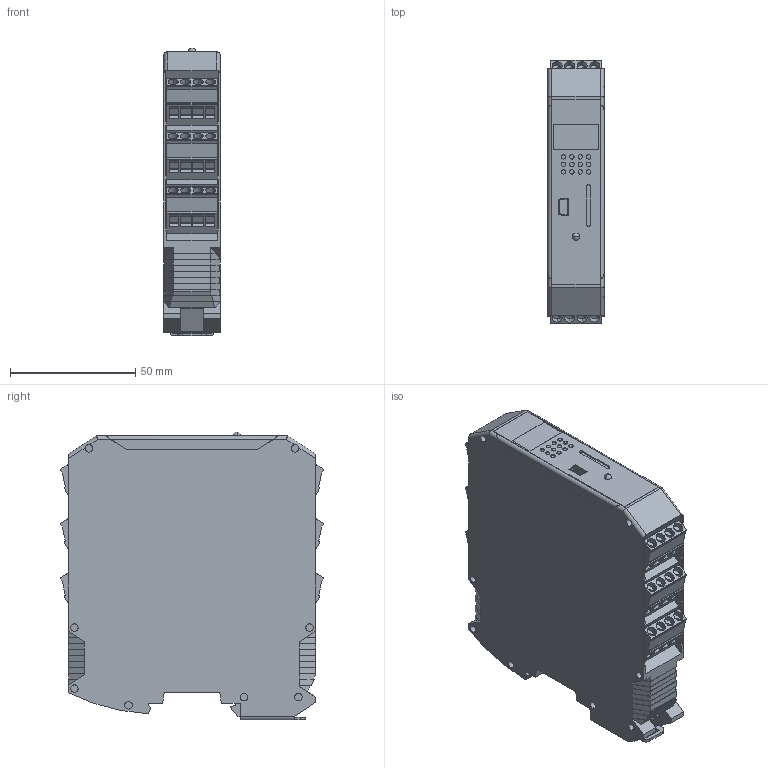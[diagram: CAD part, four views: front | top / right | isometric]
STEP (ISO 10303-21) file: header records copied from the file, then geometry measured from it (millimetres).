
FILE_DESCRIPTION( ( '' ), '1' );
FILE_NAME( '//expscmdclustefs.cadenas.external/client_exchange/iodir/jobs/output/wkb51953175_no0/STEP/AC041S_2_03.stp', '2012-12-04T14:37:41', ( '' ), ( '' ), ' ', ' ', ' ' );
FILE_SCHEMA( ( 'CONFIG_CONTROL_DESIGN' ) );
Length unit declared in the file: millimetre
Products named in the file (1): 1
Bounding box: 22.5 x 105.22 x 115.09 mm (x, y, z)
Volume: 233881.4 mm3; surface area: 40638 mm2
Topology: 1 solids, 1 shells, 830 faces, 2130 edges, 1404 vertices
Faces by surface type: plane 641, cylinder 187, sphere 2
Entity records: 25125 total; most frequent: CARTESIAN_POINT 4503, ORIENTED_EDGE 4256, DIRECTION 4171, EDGE_CURVE 2128, LINE 1731, VECTOR 1731, VERTEX_POINT 1404, AXIS2_PLACEMENT_3D 1220
